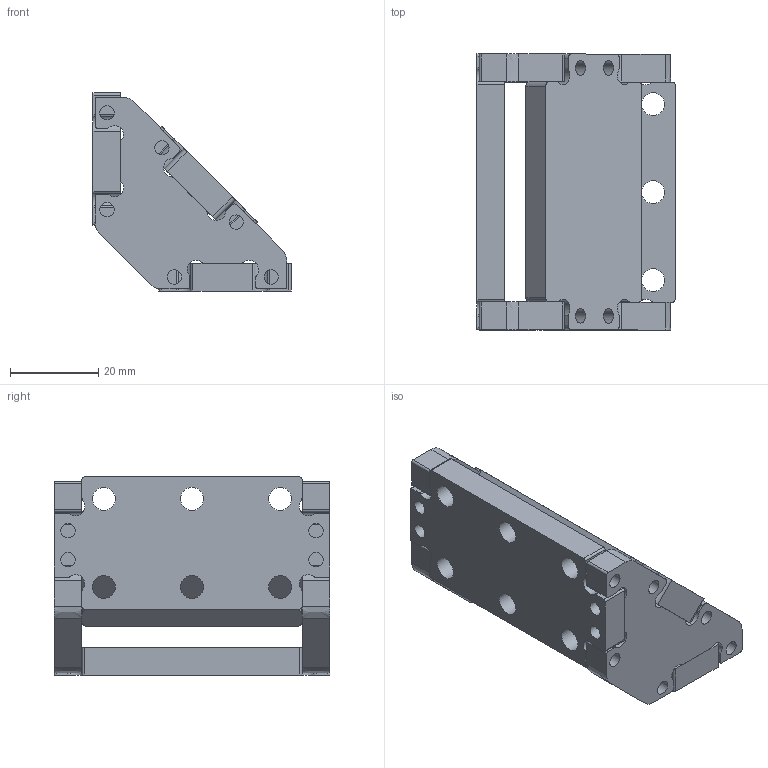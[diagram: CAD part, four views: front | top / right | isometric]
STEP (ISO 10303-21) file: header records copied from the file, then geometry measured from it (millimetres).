
FILE_DESCRIPTION(/* description */ (''),/* implementation_level */ '2;1');
FILE_NAME(/* name */ 'D:/Dropbox (Personal)/CBA/projects/machines/uSSM/cad/RCTBLK-90-025ALU-2UP-2-2-3.step',/* time_stamp */ '2018-10-31T11:10:01-04:00',/* author */ ('jakerobertread@gmail.com'),/* organization */ (''),/* preprocessor_version */ 'ST-DEVELOPER v17.2',/* originating_system */ 'Autodesk Translation Framework v7.6.0.251',/* authorisation */ '');
FILE_SCHEMA (('AUTOMOTIVE_DESIGN { 1 0 10303 214 3 1 1 }'));
Length unit declared in the file: millimetre
Products named in the file (1): RCTBLK-90-025ALU-2UP
Bounding box: 45 x 62.7 x 45 mm (x, y, z)
Volume: 40521.3 mm3; surface area: 21423.9 mm2
Topology: 5 solids, 5 shells, 230 faces, 668 edges, 448 vertices
Faces by surface type: cylinder 112, plane 82, bspline 36
Full cylindrical faces by diameter (mm): 3.25 x24, 5.25 x12
Entity records: 8497 total; most frequent: CARTESIAN_POINT 2399, ORIENTED_EDGE 1336, DIRECTION 1146, EDGE_CURVE 668, VERTEX_POINT 448, AXIS2_PLACEMENT_3D 427, EDGE_LOOP 302, LINE 292
